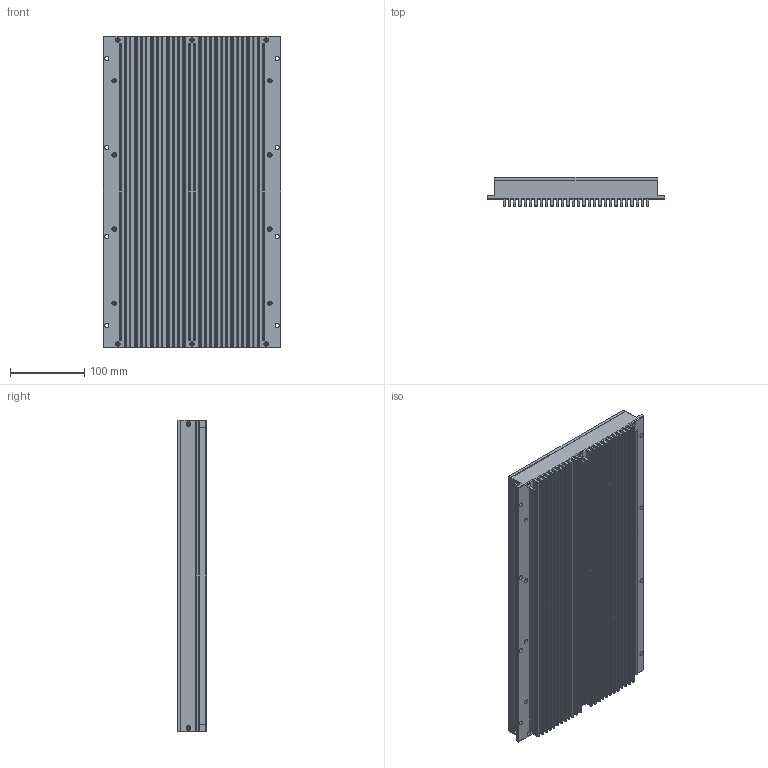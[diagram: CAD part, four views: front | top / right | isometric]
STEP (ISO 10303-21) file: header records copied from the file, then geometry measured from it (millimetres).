
FILE_DESCRIPTION((''),'2;1');
FILE_NAME('MV-LBSS-400-200','2020-12-30T',('Administrator'),(''),'PRO/ENGINEER BY PARAMETRIC TECHNOLOGY CORPORATION, 2010100','PRO/ENGINEER BY PARAMETRIC TECHNOLOGY CORPORATION, 2010100','');
FILE_SCHEMA(('CONFIG_CONTROL_DESIGN'));
Length unit declared in the file: millimetre
Products named in the file (1): MV-LBSS-400-200
Bounding box: 240 x 39 x 420 mm (x, y, z)
Volume: 3059074.6 mm3; surface area: 471575.2 mm2
Topology: 1 solids, 57 shells, 743 faces, 1854 edges, 1180 vertices
Faces by surface type: cylinder 351, plane 274, cone 118
Entity records: 21727 total; most frequent: DIRECTION 4074, CARTESIAN_POINT 3690, ORIENTED_EDGE 3356, EDGE_CURVE 1766, AXIS2_PLACEMENT_3D 1564, VERTEX_POINT 1180, VECTOR 946, LINE 946
